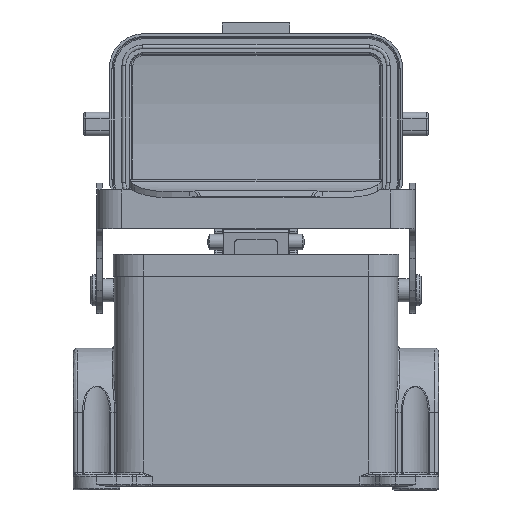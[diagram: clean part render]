
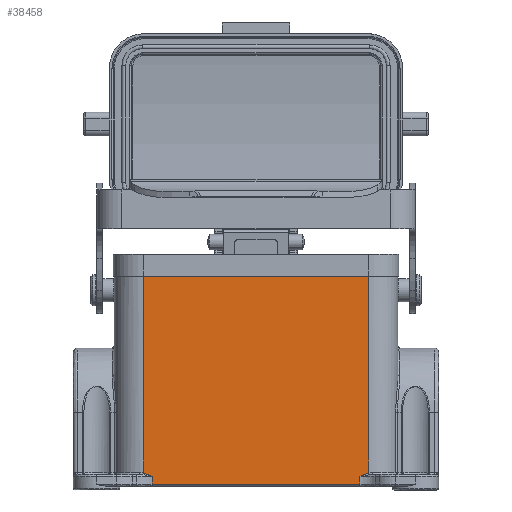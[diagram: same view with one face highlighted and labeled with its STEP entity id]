
A CAD part, front view. The second image highlights one B-rep face of the part: STEP entity #38458.
In plain terms, the highlighted planar face has unit normal (0, -1, 0) as drawn and (-1, 0, 0) by its records, which use the part's own axes.
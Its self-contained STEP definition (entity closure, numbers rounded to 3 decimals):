
#547 = LINE ( 'NONE', #11946, #21683 ) ;
#1235 = CARTESIAN_POINT ( 'NONE',  ( -21.5, 2.896, -27.643 ) ) ;
#1307 = VERTEX_POINT ( 'NONE', #72853 ) ;
#2786 = CARTESIAN_POINT ( 'NONE',  ( -21.5, 0.5, -26.737 ) ) ;
#2858 = CARTESIAN_POINT ( 'NONE',  ( -21.5, 2.864, 27.566 ) ) ;
#3163 = CARTESIAN_POINT ( 'NONE',  ( -21.5, 3.076, 28.098 ) ) ;
#7465 = CARTESIAN_POINT ( 'NONE',  ( -21.5, 2.751, -27.303 ) ) ;
#7767 = CARTESIAN_POINT ( 'NONE',  ( -21.5, 2.661, -27.093 ) ) ;
#8071 = CARTESIAN_POINT ( 'NONE',  ( -21.5, 3.015, -27.939 ) ) ;
#8451 = CARTESIAN_POINT ( 'NONE',  ( -21.5, 54., -36.5 ) ) ;
#8749 = CARTESIAN_POINT ( 'NONE',  ( -21.5, 2.5, 26.737 ) ) ;
#9071 = EDGE_LOOP ( 'NONE', ( #90275, #85880, #69352, #10993, #13656, #11288, #43416, #29290 ) ) ;
#9972 = CARTESIAN_POINT ( 'NONE',  ( -21.5, 2.966, 27.816 ) ) ;
#10993 = ORIENTED_EDGE ( 'NONE', *, *, #54992, .T. ) ;
#11186 = CARTESIAN_POINT ( 'NONE',  ( -21.5, 3.359, -29. ) ) ;
#11288 = ORIENTED_EDGE ( 'NONE', *, *, #64673, .T. ) ;
#11485 = CARTESIAN_POINT ( 'NONE',  ( -21.5, 3.174, 28.374 ) ) ;
#11946 = CARTESIAN_POINT ( 'NONE',  ( -21.5, 0., -26.737 ) ) ;
#12362 = LINE ( 'NONE', #42393, #22372 ) ;
#12651 = EDGE_CURVE ( 'NONE', #1307, #35872, #39260, .T. ) ;
#13656 = ORIENTED_EDGE ( 'NONE', *, *, #45487, .T. ) ;
#14504 = DIRECTION ( 'NONE',  ( 0., 1., 0. ) ) ;
#14595 = CARTESIAN_POINT ( 'NONE',  ( -21.5, 2.786, -27.384 ) ) ;
#15678 = VERTEX_POINT ( 'NONE', #41955 ) ;
#17133 = CARTESIAN_POINT ( 'NONE',  ( -21.5, 2.972, 27.83 ) ) ;
#19240 = B_SPLINE_CURVE_WITH_KNOTS ( 'NONE', 3,
 ( #11186, #61084, #35389, #50867, #64482, #57683, #29501, #56740, #43714, #63891, #8071, #49931, #71631, #63568, #21448, #28585, #1235, #78123, #14595, #85233, #78730, #7465, #7767, #57074, #29181 ),
 .UNSPECIFIED., .F., .F.,
 ( 4, 1, 1, 2, 2, 1, 1, 1, 1, 2, 2, 1, 1, 1, 2, 2, 4 ),
 ( 0., 0.125, 0.188, 0.219, 0.25, 0.375, 0.438, 0.469, 0.484, 0.492, 0.5, 0.625, 0.688, 0.719, 0.734, 0.75, 1. ),
 .UNSPECIFIED. ) ;
#21448 = CARTESIAN_POINT ( 'NONE',  ( -21.5, 2.981, -27.855 ) ) ;
#21683 = VECTOR ( 'NONE', #32759, 1000. ) ;
#22372 = VECTOR ( 'NONE', #14504, 1000. ) ;
#24284 = CARTESIAN_POINT ( 'NONE',  ( -21.5, 2.977, 27.843 ) ) ;
#26336 = CARTESIAN_POINT ( 'NONE',  ( -21.5, 0., 26.737 ) ) ;
#28585 = CARTESIAN_POINT ( 'NONE',  ( -21.5, 2.948, -27.772 ) ) ;
#28940 = VECTOR ( 'NONE', #68146, 1000. ) ;
#29181 = CARTESIAN_POINT ( 'NONE',  ( -21.5, 2.5, -26.737 ) ) ;
#29290 = ORIENTED_EDGE ( 'NONE', *, *, #89717, .T. ) ;
#29501 = CARTESIAN_POINT ( 'NONE',  ( -21.5, 3.196, -28.44 ) ) ;
#29535 = CARTESIAN_POINT ( 'NONE',  ( -21.5, 0.5, -36.5 ) ) ;
#29865 = DIRECTION ( 'NONE',  ( 0., 0., -1. ) ) ;
#32594 = CARTESIAN_POINT ( 'NONE',  ( -21.5, 2.5, 26.737 ) ) ;
#32759 = DIRECTION ( 'NONE',  ( 0., -1., 0. ) ) ;
#33196 = CARTESIAN_POINT ( 'NONE',  ( -21.5, 3.135, 28.261 ) ) ;
#33486 = CARTESIAN_POINT ( 'NONE',  ( -21.5, 3.253, 28.609 ) ) ;
#33726 = EDGE_CURVE ( 'NONE', #35872, #47445, #19240, .T. ) ;
#35389 = CARTESIAN_POINT ( 'NONE',  ( -21.5, 3.293, -28.752 ) ) ;
#35493 = AXIS2_PLACEMENT_3D ( 'NONE', #87020, #43998, #58272 ) ;
#35872 = VERTEX_POINT ( 'NONE', #42874 ) ;
#36621 = DIRECTION ( 'NONE',  ( 0., 0., 1. ) ) ;
#36878 = VERTEX_POINT ( 'NONE', #2786 ) ;
#36982 = CARTESIAN_POINT ( 'NONE',  ( -21.5, 0.5, 26.737 ) ) ;
#38180 = CARTESIAN_POINT ( 'NONE',  ( -21.5, 2.952, 27.781 ) ) ;
#38458 = ADVANCED_FACE ( 'NONE', ( #80308 ), #86402, .T. ) ;
#39260 = LINE ( 'NONE', #65616, #43723 ) ;
#39428 = LINE ( 'NONE', #29535, #67190 ) ;
#41955 = CARTESIAN_POINT ( 'NONE',  ( -21.5, 3.359, 29. ) ) ;
#42393 = CARTESIAN_POINT ( 'NONE',  ( -21.5, 0., 29. ) ) ;
#42874 = CARTESIAN_POINT ( 'NONE',  ( -21.5, 3.359, -29. ) ) ;
#43416 = ORIENTED_EDGE ( 'NONE', *, *, #72658, .T. ) ;
#43714 = CARTESIAN_POINT ( 'NONE',  ( -21.5, 3.112, -28.196 ) ) ;
#43723 = VECTOR ( 'NONE', #57910, 1000. ) ;
#43998 = DIRECTION ( 'NONE',  ( -1., 0., 0. ) ) ;
#45312 = CARTESIAN_POINT ( 'NONE',  ( -21.5, 2.598, 26.953 ) ) ;
#45487 = EDGE_CURVE ( 'NONE', #61670, #86733, #68827, .T. ) ;
#45605 = CARTESIAN_POINT ( 'NONE',  ( -21.5, 3.02, 27.951 ) ) ;
#47114 = CARTESIAN_POINT ( 'NONE',  ( -21.5, 3.31, 28.803 ) ) ;
#47424 = CARTESIAN_POINT ( 'NONE',  ( -21.5, 3.181, 28.395 ) ) ;
#47445 = VERTEX_POINT ( 'NONE', #80271 ) ;
#48034 = CARTESIAN_POINT ( 'NONE',  ( -21.5, 3.359, 29. ) ) ;
#49931 = CARTESIAN_POINT ( 'NONE',  ( -21.5, 2.997, -27.895 ) ) ;
#50867 = CARTESIAN_POINT ( 'NONE',  ( -21.5, 3.243, -28.584 ) ) ;
#51974 = VERTEX_POINT ( 'NONE', #62199 ) ;
#54992 = EDGE_CURVE ( 'NONE', #36878, #61670, #39428, .T. ) ;
#56632 = EDGE_CURVE ( 'NONE', #47445, #36878, #547, .T. ) ;
#56740 = CARTESIAN_POINT ( 'NONE',  ( -21.5, 3.16, -28.332 ) ) ;
#57074 = CARTESIAN_POINT ( 'NONE',  ( -21.5, 2.579, -26.908 ) ) ;
#57683 = CARTESIAN_POINT ( 'NONE',  ( -21.5, 3.205, -28.465 ) ) ;
#57910 = DIRECTION ( 'NONE',  ( 0., -1., 0. ) ) ;
#58272 = DIRECTION ( 'NONE',  ( 0., 0., 1. ) ) ;
#59589 = CARTESIAN_POINT ( 'NONE',  ( -21.5, 2.924, 27.711 ) ) ;
#60795 = CARTESIAN_POINT ( 'NONE',  ( -21.5, 2.732, 27.255 ) ) ;
#61084 = CARTESIAN_POINT ( 'NONE',  ( -21.5, 3.334, -28.9 ) ) ;
#61670 = VERTEX_POINT ( 'NONE', #36982 ) ;
#62199 = CARTESIAN_POINT ( 'NONE',  ( -21.5, 54., 29. ) ) ;
#63568 = CARTESIAN_POINT ( 'NONE',  ( -21.5, 2.984, -27.863 ) ) ;
#63891 = CARTESIAN_POINT ( 'NONE',  ( -21.5, 3.049, -28.026 ) ) ;
#64482 = CARTESIAN_POINT ( 'NONE',  ( -21.5, 3.22, -28.512 ) ) ;
#64673 = EDGE_CURVE ( 'NONE', #86733, #15678, #86818, .T. ) ;
#65616 = CARTESIAN_POINT ( 'NONE',  ( -21.5, 0., -29. ) ) ;
#67190 = VECTOR ( 'NONE', #36621, 1000. ) ;
#68146 = DIRECTION ( 'NONE',  ( 0., 1., 0. ) ) ;
#68827 = LINE ( 'NONE', #26336, #28940 ) ;
#69352 = ORIENTED_EDGE ( 'NONE', *, *, #56632, .T. ) ;
#71631 = CARTESIAN_POINT ( 'NONE',  ( -21.5, 2.99, -27.875 ) ) ;
#72658 = EDGE_CURVE ( 'NONE', #15678, #51974, #12362, .T. ) ;
#72853 = CARTESIAN_POINT ( 'NONE',  ( -21.5, 54., -29. ) ) ;
#73434 = LINE ( 'NONE', #8451, #84406 ) ;
#78123 = CARTESIAN_POINT ( 'NONE',  ( -21.5, 2.824, -27.473 ) ) ;
#78730 = CARTESIAN_POINT ( 'NONE',  ( -21.5, 2.757, -27.317 ) ) ;
#80271 = CARTESIAN_POINT ( 'NONE',  ( -21.5, 2.5, -26.737 ) ) ;
#80308 = FACE_OUTER_BOUND ( 'NONE', #9071, .T. ) ;
#83318 = CARTESIAN_POINT ( 'NONE',  ( -21.5, 3.159, 28.329 ) ) ;
#84406 = VECTOR ( 'NONE', #29865, 1000. ) ;
#85233 = CARTESIAN_POINT ( 'NONE',  ( -21.5, 2.769, -27.344 ) ) ;
#85880 = ORIENTED_EDGE ( 'NONE', *, *, #33726, .T. ) ;
#86402 = PLANE ( 'NONE',  #35493 ) ;
#86733 = VERTEX_POINT ( 'NONE', #8749 ) ;
#86818 = B_SPLINE_CURVE_WITH_KNOTS ( 'NONE', 3,
 ( #32594, #45312, #60795, #2858, #59589, #38180, #9972, #17133, #88043, #24284, #45605, #3163, #33196, #83318, #11485, #47424, #33486, #47114, #48034 ),
 .UNSPECIFIED., .F., .F.,
 ( 4, 1, 1, 1, 1, 1, 2, 2, 1, 1, 2, 2, 4 ),
 ( 0., 0.25, 0.375, 0.438, 0.469, 0.484, 0.492, 0.5, 0.625, 0.688, 0.719, 0.75, 1. ),
 .UNSPECIFIED. ) ;
#87020 = CARTESIAN_POINT ( 'NONE',  ( -21.5, 0., -36.5 ) ) ;
#88043 = CARTESIAN_POINT ( 'NONE',  ( -21.5, 2.976, 27.84 ) ) ;
#89717 = EDGE_CURVE ( 'NONE', #51974, #1307, #73434, .T. ) ;
#90275 = ORIENTED_EDGE ( 'NONE', *, *, #12651, .T. ) ;
